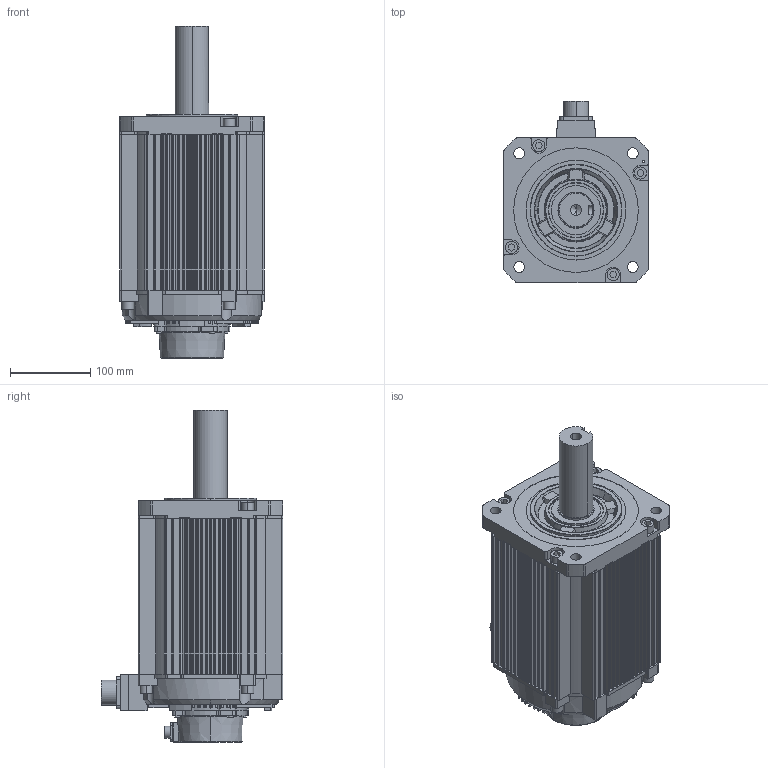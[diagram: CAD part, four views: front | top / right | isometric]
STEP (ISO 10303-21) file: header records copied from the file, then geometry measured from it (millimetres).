
FILE_DESCRIPTION (( 'STEP AP203' ), '1' );
FILE_NAME ('180A-48015.STEP', '2024-09-05T10:53:09', ( '' ), ( '' ), 'SwSTEP 2.0', 'SolidWorks 2018', '' );
FILE_SCHEMA (( 'CONFIG_CONTROL_DESIGN' ));
Length unit declared in the file: millimetre
Products named in the file (9): 橈勤硉晤鎢ん誘欶  S13E.10-01; ヶ裔; 蚐猾; 35ㄛ48NM堤粣; 48N.M儂褲; 綴裔; CMS3102A22-22P-Z; SC-CMV1-R10P-E; 180A-48015
Assembly tree (8 placements, depth 2):
  180A-48015
    CMS3102A22-22P-Z
    SC-CMV1-R10P-E
    綴裔
    ヶ裔
    蚐猾
    35ㄛ48NM堤粣
    48N.M儂褲
    橈勤硉晤鎢ん誘欶  S13E.10-01
Bounding box: 180 x 226 x 413 mm (x, y, z)
Volume: 2137359.2 mm3; surface area: 698237.2 mm2
Topology: 8 solids, 12 shells, 1772 faces, 4862 edges, 3159 vertices
Faces by surface type: plane 871, cylinder 763, torus 59, cone 53, bspline 14, sphere 12
Entity records: 58529 total; most frequent: CARTESIAN_POINT 11372, DIRECTION 10052, ORIENTED_EDGE 9604, EDGE_CURVE 4802, AXIS2_PLACEMENT_3D 3607, VERTEX_POINT 3147, VECTOR 2838, LINE 2838
